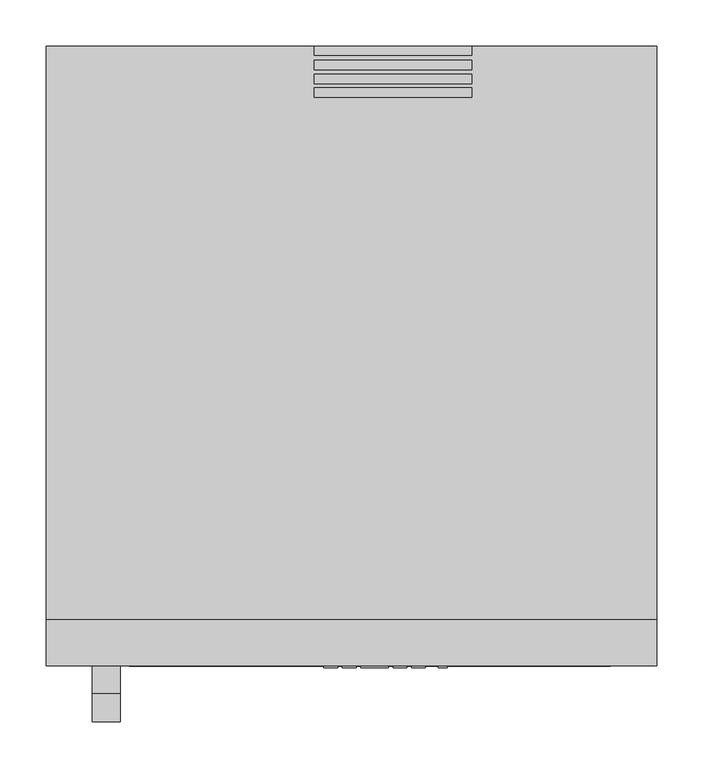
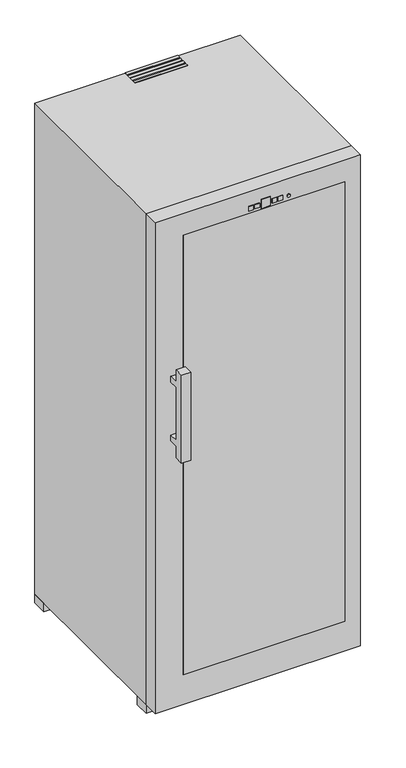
"""IFC4 building model written with IfcOpenShell, lengths in millimetres: proxy geometry, Wkb 4112_049 : WKb 4112."""

import ifcopenshell
import ifcopenshell.guid

model = None  # the IFC model being written
_history = None  # IfcOwnerHistory: only IFC2X3 demands one
_inside = {}  # id of a spatial element -> (the spatial element, [elements in it])
_under = {}  # id of a project, library or spatial element -> (it, [spatial elements below it])
_declared = {}  # id of a project -> (the project, [libraries it declares])
_typed = {}  # id of a type object -> (the type object, [elements of that type])
_made_of = {}  # id of a material, layer set ... -> (it, [elements and type objects made of it])


def new_model(schema):
    """Start an empty IFC model of exactly this schema.

    Asked for "IFC4X3", IfcOpenShell would pick the latest addendum, in which some entities
    have other attributes; the version numbers below select the first issue.
    IFC2X3 requires an IfcOwnerHistory on every rooted entity: one is made here for all.
    """
    global model, _history
    if schema == "IFC4X3":
        model = ifcopenshell.file(schema_version=(4, 3, 0, 0))
    else:
        model = ifcopenshell.file(schema=schema)
    _inside.clear()
    _under.clear()
    _declared.clear()
    _typed.clear()
    _made_of.clear()
    _history = None
    if model.schema == "IFC2X3":
        org = make("IfcOrganization", Name="unknown")
        user = make(
            "IfcPersonAndOrganization",
            ThePerson=make("IfcPerson", FamilyName="unknown"),
            TheOrganization=org,
        )
        app = make(
            "IfcApplication",
            ApplicationDeveloper=org,
            Version="unknown",
            ApplicationFullName="unknown",
            ApplicationIdentifier="unknown",
        )
        _history = make(
            "IfcOwnerHistory",
            OwningUser=user,
            OwningApplication=app,
            ChangeAction="ADDED",
            CreationDate=0,
        )
    return model


def make(cls, **values):
    """One entity of the class cls with the attributes given. An attribute that is None is left unset."""
    return model.create_entity(
        cls, **{name: value for name, value in values.items() if value is not None}
    )


def rooted(cls, **values):
    """An entity with a GlobalId (a new one), such as an element, a storey or a relation."""
    return make(cls, GlobalId=ifcopenshell.guid.new(), OwnerHistory=_history, **values)


def si_unit(unit_type, name, prefix=None):
    """IfcSIUnit, for example si_unit("LENGTHUNIT", "METRE", prefix="MILLI")."""
    return make("IfcSIUnit", UnitType=unit_type, Prefix=prefix, Name=name)


def assignment(units):
    """IfcUnitAssignment: the units of a project."""
    return None if units is None else make("IfcUnitAssignment", Units=units)


def point(xyz):
    """IfcCartesianPoint."""
    return None if xyz is None else make("IfcCartesianPoint", Coordinates=xyz)


def direction(xyz):
    """IfcDirection."""
    return None if xyz is None else make("IfcDirection", DirectionRatios=xyz)


def frame(location, z_axis=None, x_axis=None):
    """IfcAxis2Placement3D, a coordinate frame: its origin and axes. An axis left out is left unset."""
    return make(
        "IfcAxis2Placement3D",
        Location=point(location),
        Axis=direction(z_axis),
        RefDirection=direction(x_axis),
    )


def frame_2d(location, x_axis=None):
    """IfcAxis2Placement2D, a coordinate frame in the plane: its origin and x axis."""
    return make(
        "IfcAxis2Placement2D", Location=point(location), RefDirection=direction(x_axis)
    )


def origin():
    """The frame at (0, 0, 0) with its axes left unset."""
    return frame((0.0, 0.0, 0.0))


def place(relative_to, where):
    """IfcLocalPlacement: puts the frame where relative to a parent placement (None: the world)."""
    return make(
        "IfcLocalPlacement", PlacementRelTo=relative_to, RelativePlacement=where
    )


def context(
    kind, dimensions, precision=None, world=None, true_north=None, identifier=None
):
    """IfcGeometricRepresentationContext, for example the 3D "Model" context."""
    return make(
        "IfcGeometricRepresentationContext",
        ContextIdentifier=identifier,
        ContextType=kind,
        CoordinateSpaceDimension=dimensions,
        Precision=precision,
        WorldCoordinateSystem=world,
        TrueNorth=true_north,
    )


def project(units=None, contexts=None):
    """IfcProject with its units and contexts."""
    return rooted(
        "IfcProject",
        Name="project",
        RepresentationContexts=contexts,
        UnitsInContext=assignment(units),
    )


def spatial(cls, under=None, at=None, **own):
    """A site, building, storey or space (cls), placed at a placement, below another one or the project."""
    s = rooted(cls, ObjectPlacement=at, **own)
    if under is not None:
        _under.setdefault(under.id(), (under, []))[1].append(s)
    return s


def polyline(points):
    """IfcPolyline through the points."""
    return make("IfcPolyline", Points=[point(p) for p in points])


def circle_curve(where, radius):
    """IfcCircle in the frame where."""
    return make("IfcCircle", Position=where, Radius=radius)


def trimmed(basis, trim1, trim2, sense, master):
    """IfcTrimmedCurve: the piece of a basis curve between two trims."""
    return make(
        "IfcTrimmedCurve",
        BasisCurve=basis,
        Trim1=trim1,
        Trim2=trim2,
        SenseAgreement=sense,
        MasterRepresentation=master,
    )


def segment(curve, same_sense, transition):
    """IfcCompositeCurveSegment."""
    return make(
        "IfcCompositeCurveSegment",
        Transition=transition,
        SameSense=same_sense,
        ParentCurve=curve,
    )


def composite_curve(segments, self_intersect=None):
    """IfcCompositeCurve: segments joined end to end."""
    return make("IfcCompositeCurve", Segments=segments, SelfIntersect=self_intersect)


def outline(outer, holes=None, kind="AREA"):
    """IfcArbitraryClosedProfileDef: a profile drawn as a closed curve; with holes, ...WithVoids."""
    if holes is None:
        return make("IfcArbitraryClosedProfileDef", ProfileType=kind, OuterCurve=outer)
    return make(
        "IfcArbitraryProfileDefWithVoids",
        ProfileType=kind,
        OuterCurve=outer,
        InnerCurves=holes,
    )


def extrude(swept, where, along, depth):
    """IfcExtrudedAreaSolid: the profile swept, set in the frame where, extruded along a direction by depth."""
    return make(
        "IfcExtrudedAreaSolid",
        SweptArea=swept,
        Position=where,
        ExtrudedDirection=direction(along),
        Depth=depth,
    )


def faces_of(points, faces, orient=None, outer=None):
    """IfcFace entities. A face is a list of loops; a loop is a list of indices into points, from 0.

    orient and outer hold one flag for each loop. By default every Orientation is true, the
    first loop of a face is its IfcFaceOuterBound and the others are IfcFaceBound.
    """
    made = []
    for i, loops in enumerate(faces):
        bounds = []
        for j, loop in enumerate(loops):
            is_outer = j == 0 if outer is None else outer[i][j]
            bounds.append(
                make(
                    "IfcFaceOuterBound" if is_outer else "IfcFaceBound",
                    Bound=make("IfcPolyLoop", Polygon=[points[k] for k in loop]),
                    Orientation=True if orient is None else orient[i][j],
                )
            )
        made.append(make("IfcFace", Bounds=bounds))
    return made


def faceted_brep(points, faces, orient=None, outer=None, voids=None):
    """IfcFacetedBrep: a solid bounded by flat faces; with voids (closed shells), ...WithVoids."""
    shared = [point(p) for p in points]
    hull = make("IfcClosedShell", CfsFaces=faces_of(shared, faces, orient, outer))
    if voids is None:
        return make("IfcFacetedBrep", Outer=hull)
    return make(
        "IfcFacetedBrepWithVoids",
        Outer=hull,
        Voids=[
            make(cls, CfsFaces=faces_of(shared, fs, o, b)) for cls, fs, o, b in voids
        ],
    )


def shape(context_of_items, identifier, shape_type, items):
    """IfcShapeRepresentation: the items that make up one representation, for example the "Body"."""
    return make(
        "IfcShapeRepresentation",
        ContextOfItems=context_of_items,
        RepresentationIdentifier=identifier,
        RepresentationType=shape_type,
        Items=items,
    )


def source(mapping_origin, context_of_items, identifier, shape_type, items):
    """IfcRepresentationMap: a shape defined once, which mapped items show again and again."""
    return make(
        "IfcRepresentationMap",
        MappingOrigin=mapping_origin,
        MappedRepresentation=shape(context_of_items, identifier, shape_type, items),
    )


def transform(
    local_origin,
    x_axis=None,
    y_axis=None,
    z_axis=None,
    scale=None,
    scale2=None,
    scale3=None,
    uniform=True,
):
    """IfcCartesianTransformationOperator3D, or its non-uniform kind. x_axis, y_axis, z_axis: its Axis1, 2, 3."""
    if uniform:
        return make(
            "IfcCartesianTransformationOperator3D",
            Axis1=direction(x_axis),
            Axis2=direction(y_axis),
            LocalOrigin=point(local_origin),
            Scale=scale,
            Axis3=direction(z_axis),
        )
    return make(
        "IfcCartesianTransformationOperator3DnonUniform",
        Axis1=direction(x_axis),
        Axis2=direction(y_axis),
        LocalOrigin=point(local_origin),
        Scale=scale,
        Axis3=direction(z_axis),
        Scale2=scale2,
        Scale3=scale3,
    )


def mapped(mapping_source, mapping_target):
    """IfcMappedItem: shows the shape of a source again, moved by a transform."""
    return make(
        "IfcMappedItem", MappingSource=mapping_source, MappingTarget=mapping_target
    )


def made_of(thing, what):
    """Note that an element or type object is made of a material, layer set ...; save() writes the relation."""
    if what is not None:
        _made_of.setdefault(what.id(), (what, []))[1].append(thing)
    return thing


def element(
    cls,
    number,
    at=None,
    inside=None,
    cuts=None,
    type_object=None,
    material=None,
    context=None,
    identifier="Body",
    shape_type=None,
    held_by="IfcProductDefinitionShape",
    body=None,
    shapes=None,
    **own,
):
    """One element of the class cls, such as IfcWall. Its Tag is "e" and its number.

    at: its placement. inside: the storey or other place that contains it. cuts: it is an
    opening in that element (IfcRelVoidsElement). A single representation is given by context,
    identifier, shape_type and body (its items); several are given by shapes. held_by: the class
    of the entity that holds the representations. save() writes the other relations.
    """
    e = rooted(cls, Tag="e%d" % number, ObjectPlacement=at, **own)
    if body is not None:
        shapes = [shape(context, identifier, shape_type, body)]
    if shapes is not None:
        e.Representation = make(held_by, Representations=shapes)
    if inside is not None:
        _inside.setdefault(inside.id(), (inside, []))[1].append(e)
    if cuts is not None:
        rooted(
            "IfcRelVoidsElement", RelatingBuildingElement=cuts, RelatedOpeningElement=e
        )
    if type_object is not None:
        _typed.setdefault(type_object.id(), (type_object, []))[1].append(e)
    return made_of(e, material)


def aggregate(whole, parts):
    """IfcRelAggregates: a whole, such as a stair, and the parts it consists of."""
    return rooted("IfcRelAggregates", RelatingObject=whole, RelatedObjects=parts)


def save(model, path):
    """Write the relations noted so far, then the file.

    IfcRelAggregates (storeys below a building ...), IfcRelContainedInSpatialStructure (elements
    in a storey), IfcRelDefinesByType, IfcRelAssociatesMaterial and IfcRelDeclares: one each for
    every whole, place, type object, material and project.
    """
    for whole, parts in _under.values():
        aggregate(whole, parts)
    for where, things in _inside.values():
        rooted(
            "IfcRelContainedInSpatialStructure",
            RelatedElements=things,
            RelatingStructure=where,
        )
    for kind, things in _typed.values():
        rooted("IfcRelDefinesByType", RelatedObjects=things, RelatingType=kind)
    for what, things in _made_of.values():
        rooted("IfcRelAssociatesMaterial", RelatedObjects=things, RelatingMaterial=what)
    for by, libraries in _declared.values():
        rooted("IfcRelDeclares", RelatingContext=by, RelatedDefinitions=libraries)
    model.write(path)


def specialty_equipment_114975ca(model_context):
    return source(origin(), model_context, "Body", "SolidModel", [
        extrude(outline(polyline([(-390.0, -82.8345306), (-390.0, -110.3345306), (-390.0, -652.8345306), (-910.6805292, -652.8345306), (-910.6805292, -82.8345306), (-390.0, -82.8345306)]), holes=[polyline([(-820.6885747, -112.8345306), (-880.6805292, -112.8345306), (-880.6805292, -622.8345306), (-845.6885747, -622.8345306), (-820.6885747, -622.8345306), (-820.6885747, -112.8345306)]), polyline([(-805.0, -622.8345306), (-740.6885747, -622.8345306), (-740.6885747, -112.8345306), (-805.0, -112.8345306), (-805.0, -622.8345306)]), polyline([(-725.0, -622.8345306), (-660.6885747, -622.8345306), (-660.6885747, -112.8345306), (-725.0, -112.8345306), (-725.0, -622.8345306)]), polyline([(-645.0, -622.8345306), (-575.6885747, -622.8345306), (-575.6885747, -112.8345306), (-645.0, -112.8345306), (-645.0, -622.8345306)]), polyline([(-420.0, -112.8345306), (-477.5, -112.8345306), (-477.5, -622.8345306), (-455.2107547, -622.8345306), (-420.0, -622.8345306), (-420.0, -112.8345306)]), polyline([(-560.0, -622.8345306), (-493.1885747, -622.8345306), (-493.1885747, -112.8345306), (-560.0, -112.8345306), (-560.0, -622.8345306)])]), frame((0.0, 0.0, 957.8132517), z_axis=(0.0, 0.0, 1.0), x_axis=(1.0, 0.0, 0.0)), (0.0, 0.0, 1.0), 15.0),
        extrude(outline(polyline([(-390.0, -82.8345306), (-390.0, -110.3345306), (-390.0, -652.8345306), (-910.6805292, -652.8345306), (-910.6805292, -82.8345306), (-390.0, -82.8345306)]), holes=[polyline([(-820.6885747, -112.8345306), (-880.6805292, -112.8345306), (-880.6805292, -622.8345306), (-845.6885747, -622.8345306), (-820.6885747, -622.8345306), (-820.6885747, -112.8345306)]), polyline([(-805.0, -622.8345306), (-740.6885747, -622.8345306), (-740.6885747, -112.8345306), (-805.0, -112.8345306), (-805.0, -622.8345306)]), polyline([(-725.0, -622.8345306), (-660.6885747, -622.8345306), (-660.6885747, -112.8345306), (-725.0, -112.8345306), (-725.0, -622.8345306)]), polyline([(-645.0, -622.8345306), (-575.6885747, -622.8345306), (-575.6885747, -112.8345306), (-645.0, -112.8345306), (-645.0, -622.8345306)]), polyline([(-420.0, -112.8345306), (-477.5, -112.8345306), (-477.5, -622.8345306), (-455.2107547, -622.8345306), (-420.0, -622.8345306), (-420.0, -112.8345306)]), polyline([(-560.0, -622.8345306), (-493.1885747, -622.8345306), (-493.1885747, -112.8345306), (-560.0, -112.8345306), (-560.0, -622.8345306)])]), frame((0.0, 0.0, 757.8132517), z_axis=(0.0, 0.0, 1.0), x_axis=(1.0, 0.0, 0.0)), (0.0, 0.0, 1.0), 15.0),
        extrude(outline(polyline([(-390.0, -82.8345306), (-390.0, -110.3345306), (-390.0, -652.8345306), (-910.6805292, -652.8345306), (-910.6805292, -82.8345306), (-390.0, -82.8345306)]), holes=[polyline([(-820.6885747, -112.8345306), (-880.6805292, -112.8345306), (-880.6805292, -622.8345306), (-845.6885747, -622.8345306), (-820.6885747, -622.8345306), (-820.6885747, -112.8345306)]), polyline([(-805.0, -622.8345306), (-740.6885747, -622.8345306), (-740.6885747, -112.8345306), (-805.0, -112.8345306), (-805.0, -622.8345306)]), polyline([(-725.0, -622.8345306), (-660.6885747, -622.8345306), (-660.6885747, -112.8345306), (-725.0, -112.8345306), (-725.0, -622.8345306)]), polyline([(-645.0, -622.8345306), (-575.6885747, -622.8345306), (-575.6885747, -112.8345306), (-645.0, -112.8345306), (-645.0, -622.8345306)]), polyline([(-420.0, -112.8345306), (-477.5, -112.8345306), (-477.5, -622.8345306), (-455.2107547, -622.8345306), (-420.0, -622.8345306), (-420.0, -112.8345306)]), polyline([(-560.0, -622.8345306), (-493.1885747, -622.8345306), (-493.1885747, -112.8345306), (-560.0, -112.8345306), (-560.0, -622.8345306)])]), frame((0.0, 0.0, 457.8132517), z_axis=(0.0, 0.0, 1.0), x_axis=(1.0, 0.0, 0.0)), (0.0, 0.0, 1.0), 15.0),
        extrude(outline(polyline([(-390.0, -82.8345306), (-390.0, -110.3345306), (-390.0, -652.8345306), (-910.6805292, -652.8345306), (-910.6805292, -82.8345306), (-390.0, -82.8345306)]), holes=[polyline([(-820.6885747, -112.8345306), (-880.6805292, -112.8345306), (-880.6805292, -622.8345306), (-845.6885747, -622.8345306), (-820.6885747, -622.8345306), (-820.6885747, -112.8345306)]), polyline([(-805.0, -622.8345306), (-740.6885747, -622.8345306), (-740.6885747, -112.8345306), (-805.0, -112.8345306), (-805.0, -622.8345306)]), polyline([(-725.0, -622.8345306), (-660.6885747, -622.8345306), (-660.6885747, -112.8345306), (-725.0, -112.8345306), (-725.0, -622.8345306)]), polyline([(-645.0, -622.8345306), (-575.6885747, -622.8345306), (-575.6885747, -112.8345306), (-645.0, -112.8345306), (-645.0, -622.8345306)]), polyline([(-420.0, -112.8345306), (-477.5, -112.8345306), (-477.5, -622.8345306), (-455.2107547, -622.8345306), (-420.0, -622.8345306), (-420.0, -112.8345306)]), polyline([(-560.0, -622.8345306), (-493.1885747, -622.8345306), (-493.1885747, -112.8345306), (-560.0, -112.8345306), (-560.0, -622.8345306)])]), frame((0.0, 0.0, 197.8132517), z_axis=(0.0, 0.0, 1.0), x_axis=(1.0, 0.0, 0.0)), (0.0, 0.0, 1.0), 15.0),
        extrude(outline(polyline([(-390.0, -82.8345306), (-390.0, -110.3345306), (-390.0, -652.8345306), (-910.6805292, -652.8345306), (-910.6805292, -82.8345306), (-390.0, -82.8345306)]), holes=[polyline([(-820.6885747, -112.8345306), (-880.6805292, -112.8345306), (-880.6805292, -622.8345306), (-845.6885747, -622.8345306), (-820.6885747, -622.8345306), (-820.6885747, -112.8345306)]), polyline([(-805.0, -622.8345306), (-740.6885747, -622.8345306), (-740.6885747, -112.8345306), (-805.0, -112.8345306), (-805.0, -622.8345306)]), polyline([(-725.0, -622.8345306), (-660.6885747, -622.8345306), (-660.6885747, -112.8345306), (-725.0, -112.8345306), (-725.0, -622.8345306)]), polyline([(-645.0, -622.8345306), (-575.6885747, -622.8345306), (-575.6885747, -112.8345306), (-645.0, -112.8345306), (-645.0, -622.8345306)]), polyline([(-420.0, -112.8345306), (-477.5, -112.8345306), (-477.5, -622.8345306), (-455.2107547, -622.8345306), (-420.0, -622.8345306), (-420.0, -112.8345306)]), polyline([(-560.0, -622.8345306), (-493.1885747, -622.8345306), (-493.1885747, -112.8345306), (-560.0, -112.8345306), (-560.0, -622.8345306)])]), frame((0.0, 0.0, -122.1867483), z_axis=(0.0, 0.0, 1.0), x_axis=(1.0, 0.0, 0.0)), (0.0, 0.0, 1.0), 15.0),
        extrude(outline(polyline([(-390.0, -82.8345306), (-390.0, -110.3345306), (-390.0, -652.8345306), (-910.6805292, -652.8345306), (-910.6805292, -82.8345306), (-390.0, -82.8345306)]), holes=[polyline([(-820.6885747, -112.8345306), (-880.6805292, -112.8345306), (-880.6805292, -622.8345306), (-845.6885747, -622.8345306), (-820.6885747, -622.8345306), (-820.6885747, -112.8345306)]), polyline([(-805.0, -622.8345306), (-740.6885747, -622.8345306), (-740.6885747, -112.8345306), (-805.0, -112.8345306), (-805.0, -622.8345306)]), polyline([(-725.0, -622.8345306), (-660.6885747, -622.8345306), (-660.6885747, -112.8345306), (-725.0, -112.8345306), (-725.0, -622.8345306)]), polyline([(-645.0, -622.8345306), (-575.6885747, -622.8345306), (-575.6885747, -112.8345306), (-645.0, -112.8345306), (-645.0, -622.8345306)]), polyline([(-420.0, -112.8345306), (-477.5, -112.8345306), (-477.5, -622.8345306), (-455.2107547, -622.8345306), (-420.0, -622.8345306), (-420.0, -112.8345306)]), polyline([(-560.0, -622.8345306), (-493.1885747, -622.8345306), (-493.1885747, -112.8345306), (-560.0, -112.8345306), (-560.0, -622.8345306)])]), frame((0.0, 0.0, -353.1867483), z_axis=(0.0, 0.0, 1.0), x_axis=(1.0, 0.0, 0.0)), (0.0, 0.0, 1.0), 5.0),
        extrude(outline(polyline([(-540.0, -29.8345306), (-540.0, -39.8345306), (-710.0, -39.8345306), (-710.0, -29.8345306), (-540.0, -29.8345306)])), frame((0.0, 0.0, 1216.8132517), z_axis=(0.0, 0.0, 1.0), x_axis=(1.0, 0.0, 0.0)), (0.0, 0.0, 1.0), 1.0318985),
        extrude(outline(polyline([(-540.0, -45.1511593), (-540.0, -55.1511593), (-710.0, -55.1511593), (-710.0, -45.1511593), (-540.0, -45.1511593)])), frame((0.0, 0.0, 1216.8132517), z_axis=(0.0, 0.0, 1.0), x_axis=(1.0, 0.0, 0.0)), (0.0, 0.0, 1.0), 1.0318985),
        extrude(outline(polyline([(-540.0, -60.1400497), (-540.0, -70.1400497), (-710.0, -70.1400497), (-710.0, -60.1400497), (-540.0, -60.1400497)])), frame((0.0, 0.0, 1216.8132517), z_axis=(0.0, 0.0, 1.0), x_axis=(1.0, 0.0, 0.0)), (0.0, 0.0, 1.0), 1.0318985),
        extrude(outline(polyline([(-540.0, -74.8345306), (-540.0, -84.8345306), (-710.0, -84.8345306), (-710.0, -74.8345306), (-540.0, -74.8345306)])), frame((0.0, 0.0, 1216.8132517), z_axis=(0.0, 0.0, 1.0), x_axis=(1.0, 0.0, 0.0)), (0.0, 0.0, 1.0), 1.0318985),
        extrude(outline(polyline([(-630.0, -701.7817027), (-660.0, -701.7817027), (-660.0, -699.8345306), (-630.0, -699.8345306), (-630.0, -701.7817027)])), frame((0.0, 0.0, 1146.8132517), z_axis=(0.0, 0.0, 1.0), x_axis=(1.0, 0.0, 0.0)), (0.0, 0.0, 1.0), 30.0),
        extrude(outline(polyline([(-665.0, -701.7817027), (-680.0, -701.7817027), (-680.0, -699.8345306), (-665.0, -699.8345306), (-665.0, -701.7817027)])), frame((0.0, 0.0, 1152.245761), z_axis=(0.0, 0.0, 1.0), x_axis=(1.0, 0.0, 0.0)), (0.0, 0.0, 1.0), 15.0),
        extrude(outline(polyline([(-685.0, -701.7817027), (-700.0, -701.7817027), (-700.0, -699.8345306), (-685.0, -699.8345306), (-685.0, -701.7817027)])), frame((0.0, 0.0, 1152.245761), z_axis=(0.0, 0.0, 1.0), x_axis=(1.0, 0.0, 0.0)), (0.0, 0.0, 1.0), 15.0),
        extrude(outline(polyline([(-610.0, -701.7817027), (-625.0, -701.7817027), (-625.0, -699.8345306), (-610.0, -699.8345306), (-610.0, -701.7817027)])), frame((0.0, 0.0, 1152.245761), z_axis=(0.0, 0.0, 1.0), x_axis=(1.0, 0.0, 0.0)), (0.0, 0.0, 1.0), 15.0),
        extrude(outline(polyline([(-590.0, -701.7817027), (-605.0, -701.7817027), (-605.0, -699.8345306), (-590.0, -699.8345306), (-590.0, -701.7817027)])), frame((0.0, 0.0, 1152.245761), z_axis=(0.0, 0.0, 1.0), x_axis=(1.0, 0.0, 0.0)), (0.0, 0.0, 1.0), 15.0),
        extrude(outline(composite_curve([segment(trimmed(circle_curve(frame_2d((1159.745761, -571.25)), 5.0), [point((1159.745761, -576.25))], [point((1159.745761, -566.25))], False, "CARTESIAN"), True, "CONTINUOUS"), segment(trimmed(circle_curve(frame_2d((1159.745761, -571.25)), 5.0), [point((1159.745761, -566.25))], [point((1159.745761, -576.25))], False, "CARTESIAN"), True, "CONTINUOUS")], self_intersect=False)), frame((0.0, -701.7817027, 0.0), z_axis=(0.0, 1.0, 0.0), x_axis=(0.0, 0.0, 1.0)), (0.0, 0.0, 1.0), 1.947172),
        extrude(outline(polyline([(-390.0, -699.8345306), (-910.0, -699.8345306), (-910.0, -649.8345306), (-390.0, -649.8345306), (-390.0, -699.8345306)])), frame((0.0, 0.0, -353.1867483), z_axis=(0.0, 0.0, 1.0), x_axis=(1.0, 0.0, 0.0)), (0.0, 0.0, 1.0), 1495.0),
        extrude(outline(polyline([(1216.8132517, -340.0), (1216.8132517, -1000.0), (-453.1867483, -1000.0), (-453.1867483, -340.0), (1216.8132517, -340.0)]), holes=[polyline([(1141.8132517, -910.0), (1141.8132517, -390.0), (-353.1867483, -390.0), (-353.1867483, -910.0), (1141.8132517, -910.0)])]), frame((0.0, -699.8345306, 0.0), z_axis=(0.0, 1.0, 0.0), x_axis=(0.0, 0.0, 1.0)), (0.0, 0.0, 1.0), 50.0),
        faceted_brep([(-340.0, -649.8345306, 1216.8132517), (-1000.0, -649.8345306, 1216.8132517), (-1000.0, -649.8345306, -453.1867483), (-340.0, -649.8345306, -453.1867483), (-910.0, -649.8345306, 1141.8132517), (-390.0, -649.8345306, 1141.8132517), (-390.0, -649.8345306, -353.1867483), (-910.0, -649.8345306, -353.1867483), (-340.0, -29.8345306, 1216.8132517), (-340.0, -29.8345306, -453.1867483), (-1000.0, -29.8345306, -453.1867483), (-1000.0, -29.8345306, 1216.8132517), (-390.0, -79.8345306, 1141.8132517), (-910.0, -79.8345306, 1141.8132517), (-910.0, -79.8345306, -353.1867483), (-390.0, -79.8345306, -353.1867483)], [[[0, 1, 2, 3], [4, 5, 6, 7]], [[8, 9, 10, 11]], [[1, 0, 8, 11]], [[2, 1, 11, 10]], [[3, 2, 10, 9]], [[0, 3, 9, 8]], [[12, 13, 14, 15]], [[13, 12, 5, 4]], [[14, 13, 4, 7]], [[15, 14, 7, 6]], [[12, 15, 6, 5]]]),
        extrude(outline(polyline([(-340.0, -599.8345306), (-340.0, -649.8345306), (-390.0, -649.8345306), (-390.0, -599.8345306), (-340.0, -599.8345306)])), frame((0.0, 0.0, -483.1867483), z_axis=(0.0, 0.0, 1.0), x_axis=(1.0, 0.0, 0.0)), (0.0, 0.0, 1.0), 30.0),
        extrude(outline(polyline([(-340.0, -29.8345306), (-340.0, -79.8345306), (-390.0, -79.8345306), (-390.0, -29.8345306), (-340.0, -29.8345306)])), frame((0.0, 0.0, -483.1867483), z_axis=(0.0, 0.0, 1.0), x_axis=(1.0, 0.0, 0.0)), (0.0, 0.0, 1.0), 30.0),
        extrude(outline(polyline([(-950.0, -29.8345306), (-950.0, -79.8345306), (-1000.0, -79.8345306), (-1000.0, -29.8345306), (-950.0, -29.8345306)])), frame((0.0, 0.0, -483.1867483), z_axis=(0.0, 0.0, 1.0), x_axis=(1.0, 0.0, 0.0)), (0.0, 0.0, 1.0), 30.0),
        extrude(outline(polyline([(-950.0, -599.8345306), (-950.0, -649.8345306), (-1000.0, -649.8345306), (-1000.0, -599.8345306), (-950.0, -599.8345306)])), frame((0.0, 0.0, -483.1867483), z_axis=(0.0, 0.0, 1.0), x_axis=(1.0, 0.0, 0.0)), (0.0, 0.0, 1.0), 30.0),
        extrude(outline(polyline([(-729.8345306, 676.8132517), (-699.8345306, 676.8132517), (-699.8345306, 656.8132517), (-729.8345306, 656.8132517), (-729.8345306, 476.8132517), (-699.8345306, 476.8132517), (-699.8345306, 456.8132517), (-729.8345306, 456.8132517), (-729.8345306, 416.8132517), (-759.8345306, 416.8132517), (-759.8345306, 716.8132517), (-729.8345306, 716.8132517), (-729.8345306, 676.8132517)])), frame((-950.0, 0.0, 0.0), z_axis=(1.0, 0.0, 0.0), x_axis=(0.0, 1.0, 0.0)), (0.0, 0.0, 1.0), 30.0),
    ])


if __name__ == "__main__":
    model = new_model("IFC4")
    model_context = context("Model", 3, world=origin())
    ifc_project = project(units=[si_unit("LENGTHUNIT", "METRE", prefix="MILLI")], contexts=[model_context])
    site = spatial("IfcSite", under=ifc_project)
    building = spatial("IfcBuilding", under=site)
    placement = place(None, origin())
    specialty_equipment_shape = specialty_equipment_114975ca(model_context)
    element("IfcBuildingElementProxy", 1, Name="Wkb 4112_049 : WKb 4112", ObjectType="Wkb 4112_049 : WKb 4112", at=placement, inside=building, context=model_context, shape_type="MappedRepresentation", body=[
        mapped(specialty_equipment_shape, transform((0.0, 0.0, 0.0), x_axis=(1.0, 0.0, 0.0), y_axis=(0.0, 1.0, 0.0), z_axis=(0.0, 0.0, 1.0))),
    ])
    save(model, "model.ifc")
